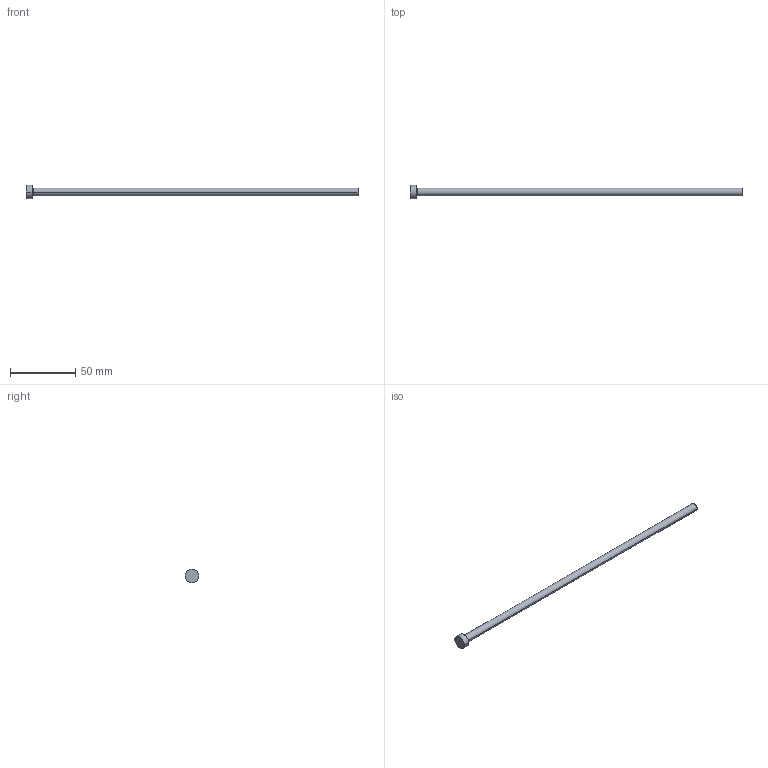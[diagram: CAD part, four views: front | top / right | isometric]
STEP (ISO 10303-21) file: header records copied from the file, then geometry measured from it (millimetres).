
FILE_DESCRIPTION (( 'STEP AP214' ), '1' );
FILE_NAME ('P16-10.STEP', '2020-03-11T18:35:58', ( '' ), ( '' ), 'SwSTEP 2.0', 'SolidWorks 2018', '' );
FILE_SCHEMA (( 'AUTOMOTIVE_DESIGN' ));
Length unit declared in the file: inch
Products named in the file (1): P16-10
Bounding box: 254 x 10.32 x 10.32 mm (x, y, z)
Volume: 7320 mm3; surface area: 4967.3 mm2
Topology: 1 solids, 1 shells, 13 faces, 24 edges, 14 vertices
Faces by surface type: cone 4, cylinder 4, plane 3, torus 2
Entity records: 366 total; most frequent: DIRECTION 68, CARTESIAN_POINT 52, ORIENTED_EDGE 48, AXIS2_PLACEMENT_3D 30, EDGE_CURVE 24, CIRCLE 16, VERTEX_POINT 14, EDGE_LOOP 14
